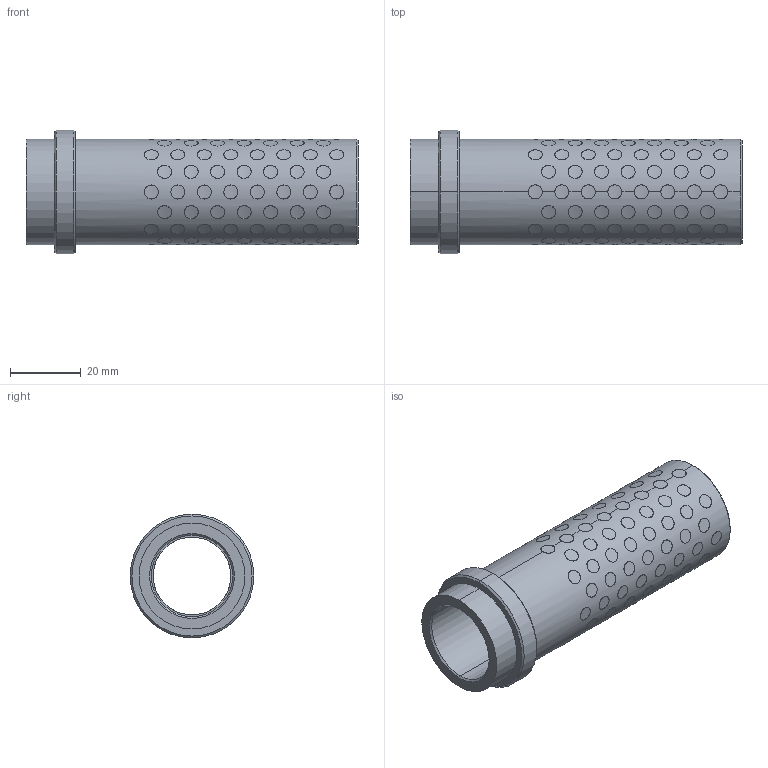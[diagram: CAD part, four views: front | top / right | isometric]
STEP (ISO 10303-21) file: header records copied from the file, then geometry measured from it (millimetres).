
FILE_DESCRIPTION((''),'2;1');
FILE_NAME('G31222086','2017-12-30T',('MANU'),(''),'PRO/ENGINEER BY PARAMETRIC TECHNOLOGY CORPORATION, 2012130','PRO/ENGINEER BY PARAMETRIC TECHNOLOGY CORPORATION, 2012130','');
FILE_SCHEMA(('CONFIG_CONTROL_DESIGN'));
Length unit declared in the file: millimetre
Products named in the file (1): G31222086
Bounding box: 94 x 35 x 35 mm (x, y, z)
Volume: 30940.5 mm3; surface area: 28563.6 mm2
Topology: 121 solids, 121 shells, 745 faces, 1586 edges, 1054 vertices
Faces by surface type: cylinder 730, cone 10, plane 5
Entity records: 36006 total; most frequent: CARTESIAN_POINT 21527, ORIENTED_EDGE 3172, DIRECTION 2082, EDGE_CURVE 1586, VERTEX_POINT 1054, B_SPLINE_CURVE_WITH_KNOTS 1024, EDGE_LOOP 958, AXIS2_PLACEMENT_3D 775
